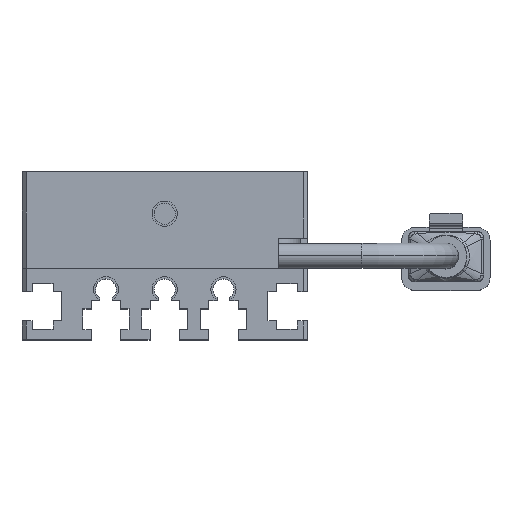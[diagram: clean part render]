
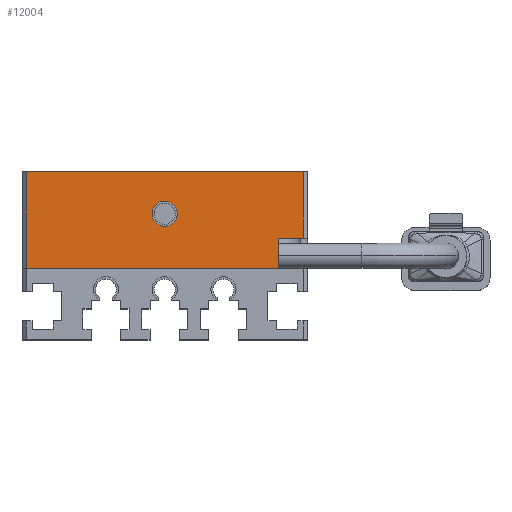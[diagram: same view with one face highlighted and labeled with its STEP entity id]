
A CAD part, top view. The second image highlights one B-rep face of the part: STEP entity #12004.
In plain terms, the highlighted planar face has unit normal (0, 0, 1) as drawn and (0, 0, -1) by its records, which use the part's own axes.
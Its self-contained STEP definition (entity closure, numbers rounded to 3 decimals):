
#228 = EDGE_CURVE ( 'NONE', #5118, #663, #520, .T. ) ;
#495 = CARTESIAN_POINT ( 'NONE',  ( -13.5, 3., 0. ) ) ;
#520 = LINE ( 'NONE', #4130, #1701 ) ;
#663 = VERTEX_POINT ( 'NONE', #11627 ) ;
#1001 = CARTESIAN_POINT ( 'NONE',  ( -13.5, 3.6, 0. ) ) ;
#1186 = ORIENTED_EDGE ( 'NONE', *, *, #12672, .F. ) ;
#1408 = ORIENTED_EDGE ( 'NONE', *, *, #228, .F. ) ;
#1519 = VERTEX_POINT ( 'NONE', #7323 ) ;
#1701 = VECTOR ( 'NONE', #9575, 1000. ) ;
#1780 = VECTOR ( 'NONE', #3410, 1000. ) ;
#2197 = ORIENTED_EDGE ( 'NONE', *, *, #3074, .T. ) ;
#2542 = LINE ( 'NONE', #5033, #3344 ) ;
#3074 = EDGE_CURVE ( 'NONE', #7908, #9123, #12779, .T. ) ;
#3132 = DIRECTION ( 'NONE',  ( 0., 0., -1. ) ) ;
#3317 = CARTESIAN_POINT ( 'NONE',  ( -16.5, 3.6, 0. ) ) ;
#3344 = VECTOR ( 'NONE', #9649, 1000. ) ;
#3410 = DIRECTION ( 'NONE',  ( 0., 1., 0. ) ) ;
#3537 = CARTESIAN_POINT ( 'NONE',  ( -16.5, 3.6, 0. ) ) ;
#4130 = CARTESIAN_POINT ( 'NONE',  ( -17., 0., 0. ) ) ;
#4382 = DIRECTION ( 'NONE',  ( 1., 0., 0. ) ) ;
#4439 = EDGE_LOOP ( 'NONE', ( #1186, #12418, #2197, #11754, #6169, #1408 ) ) ;
#4687 = ORIENTED_EDGE ( 'NONE', *, *, #8923, .F. ) ;
#4703 = CARTESIAN_POINT ( 'NONE',  ( 0., 6.5, 0. ) ) ;
#5033 = CARTESIAN_POINT ( 'NONE',  ( 16.5, 0., 0. ) ) ;
#5118 = VERTEX_POINT ( 'NONE', #11581 ) ;
#5505 = CARTESIAN_POINT ( 'NONE',  ( -17., 11.5, 0. ) ) ;
#5517 = CARTESIAN_POINT ( 'NONE',  ( 1.5, 6.5, 0. ) ) ;
#6169 = ORIENTED_EDGE ( 'NONE', *, *, #7244, .T. ) ;
#6262 = CARTESIAN_POINT ( 'NONE',  ( -1.5, 6.5, 0. ) ) ;
#6861 = VERTEX_POINT ( 'NONE', #5517 ) ;
#7244 = EDGE_CURVE ( 'NONE', #1519, #663, #2542, .T. ) ;
#7248 = AXIS2_PLACEMENT_3D ( 'NONE', #7666, #3132, #8952 ) ;
#7323 = CARTESIAN_POINT ( 'NONE',  ( 16.5, 11.5, 0. ) ) ;
#7666 = CARTESIAN_POINT ( 'NONE',  ( 0., 6.5, 0. ) ) ;
#7908 = VERTEX_POINT ( 'NONE', #3537 ) ;
#8247 = AXIS2_PLACEMENT_3D ( 'NONE', #5505, #13303, #11108 ) ;
#8705 = FACE_OUTER_BOUND ( 'NONE', #4439, .T. ) ;
#8723 = EDGE_CURVE ( 'NONE', #1519, #9123, #9187, .T. ) ;
#8923 = EDGE_CURVE ( 'NONE', #6861, #12281, #14726, .T. ) ;
#8952 = DIRECTION ( 'NONE',  ( -1., 0., 0. ) ) ;
#9123 = VERTEX_POINT ( 'NONE', #11120 ) ;
#9187 = LINE ( 'NONE', #9405, #14246 ) ;
#9224 = VECTOR ( 'NONE', #4382, 1000. ) ;
#9238 = CARTESIAN_POINT ( 'NONE',  ( -16.5, 11.5, 0. ) ) ;
#9405 = CARTESIAN_POINT ( 'NONE',  ( -17., 11.5, 0. ) ) ;
#9437 = ORIENTED_EDGE ( 'NONE', *, *, #9872, .F. ) ;
#9575 = DIRECTION ( 'NONE',  ( 1., 0., 0. ) ) ;
#9649 = DIRECTION ( 'NONE',  ( 0., -1., 0. ) ) ;
#9693 = CIRCLE ( 'NONE', #13545, 1.5 ) ;
#9860 = EDGE_LOOP ( 'NONE', ( #9437, #4687 ) ) ;
#9872 = EDGE_CURVE ( 'NONE', #12281, #6861, #9693, .T. ) ;
#9977 = FACE_BOUND ( 'NONE', #9860, .T. ) ;
#10114 = LINE ( 'NONE', #3317, #9224 ) ;
#10526 = DIRECTION ( 'NONE',  ( -1., 0., 0. ) ) ;
#11108 = DIRECTION ( 'NONE',  ( -1., 0., 0. ) ) ;
#11120 = CARTESIAN_POINT ( 'NONE',  ( -16.5, 11.5, 0. ) ) ;
#11259 = PLANE ( 'NONE',  #8247 ) ;
#11581 = CARTESIAN_POINT ( 'NONE',  ( -13.5, 0., 0. ) ) ;
#11627 = CARTESIAN_POINT ( 'NONE',  ( 16.5, 0., 0. ) ) ;
#11754 = ORIENTED_EDGE ( 'NONE', *, *, #8723, .F. ) ;
#12004 = ADVANCED_FACE ( 'NONE', ( #8705, #9977 ), #11259, .T. ) ;
#12182 = DIRECTION ( 'NONE',  ( 0., -1., 0. ) ) ;
#12281 = VERTEX_POINT ( 'NONE', #6262 ) ;
#12418 = ORIENTED_EDGE ( 'NONE', *, *, #13179, .F. ) ;
#12672 = EDGE_CURVE ( 'NONE', #13856, #5118, #13328, .T. ) ;
#12779 = LINE ( 'NONE', #9238, #1780 ) ;
#13166 = DIRECTION ( 'NONE',  ( -1., 0., 0. ) ) ;
#13179 = EDGE_CURVE ( 'NONE', #7908, #13856, #10114, .T. ) ;
#13303 = DIRECTION ( 'NONE',  ( 0., 0., -1. ) ) ;
#13328 = LINE ( 'NONE', #495, #13563 ) ;
#13545 = AXIS2_PLACEMENT_3D ( 'NONE', #4703, #13921, #13166 ) ;
#13563 = VECTOR ( 'NONE', #12182, 1000. ) ;
#13856 = VERTEX_POINT ( 'NONE', #1001 ) ;
#13921 = DIRECTION ( 'NONE',  ( 0., 0., -1. ) ) ;
#14246 = VECTOR ( 'NONE', #10526, 1000. ) ;
#14726 = CIRCLE ( 'NONE', #7248, 1.5 ) ;
